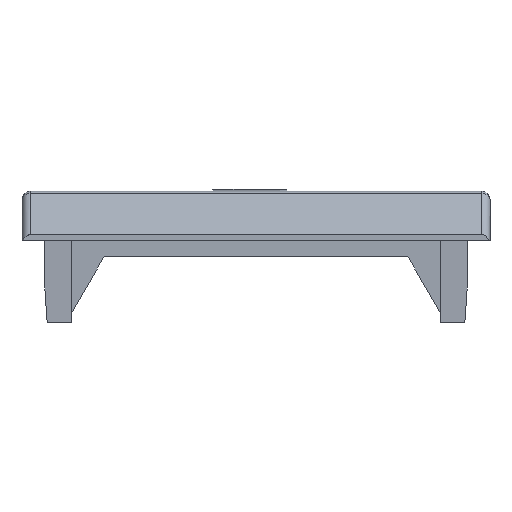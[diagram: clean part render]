
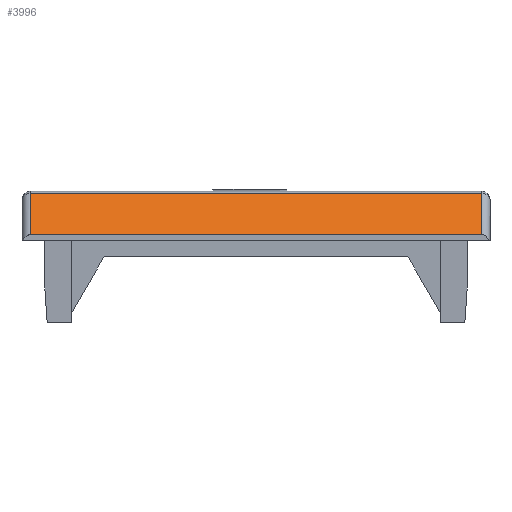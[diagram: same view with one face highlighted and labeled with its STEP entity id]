
A CAD part, front view. The second image highlights one B-rep face of the part: STEP entity #3996.
In plain terms, the highlighted planar face has unit normal (0, -0.707, 0.707).
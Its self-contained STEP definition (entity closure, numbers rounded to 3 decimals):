
#318=FACE_OUTER_BOUND($,#550,.T.);
#550=EDGE_LOOP($,(#3585,#3586,#3587,#3588));
#658=LINE($,#5653,#1166);
#666=LINE($,#5679,#1174);
#673=LINE($,#5695,#1181);
#1060=LINE($,#6490,#1568);
#1166=VECTOR($,#4516,55.);
#1174=VECTOR($,#4546,7.081);
#1181=VECTOR($,#4563,7.081);
#1568=VECTOR($,#5278,55.);
#1670=VERTEX_POINT($,#5633);
#1675=VERTEX_POINT($,#5646);
#1684=VERTEX_POINT($,#5677);
#1688=VERTEX_POINT($,#5694);
#2077=EDGE_CURVE($,#1675,#1670,#658,.T.);
#2091=EDGE_CURVE($,#1684,#1675,#666,.T.);
#2100=EDGE_CURVE($,#1670,#1688,#673,.T.);
#2488=EDGE_CURVE($,#1684,#1688,#1060,.T.);
#3585=ORIENTED_EDGE($,*,*,#2091,.F.);
#3586=ORIENTED_EDGE($,*,*,#2488,.T.);
#3587=ORIENTED_EDGE($,*,*,#2100,.F.);
#3588=ORIENTED_EDGE($,*,*,#2077,.F.);
#3783=PLANE($,#4256);
#3996=ADVANCED_FACE($,(#318),#3783,.T.);
#4256=AXIS2_PLACEMENT_3D($,#6489,#5276,#5277);
#4516=DIRECTION($,(1.,0.,0.));
#4546=DIRECTION($,(0.,0.707,0.707));
#4563=DIRECTION($,(0.,-0.707,-0.707));
#5276=DIRECTION('center_axis',(0.,-0.707,0.707));
#5277=DIRECTION('ref_axis',(1.,0.,0.));
#5278=DIRECTION($,(1.,0.,0.));
#5633=CARTESIAN_POINT('',(56.,-66.493,5.707));
#5646=CARTESIAN_POINT('',(1.,-66.493,5.707));
#5653=CARTESIAN_POINT($,(21.375,-66.493,5.707));
#5677=CARTESIAN_POINT('',(1.,-71.5,0.7));
#5679=CARTESIAN_POINT($,(1.,-52.475,19.725));
#5694=CARTESIAN_POINT('',(56.,-71.5,0.7));
#5695=CARTESIAN_POINT($,(56.,-70.35,1.85));
#6489=CARTESIAN_POINT('Origin',(14.25,-68.85,3.35));
#6490=CARTESIAN_POINT($,(14.25,-71.5,0.7));
